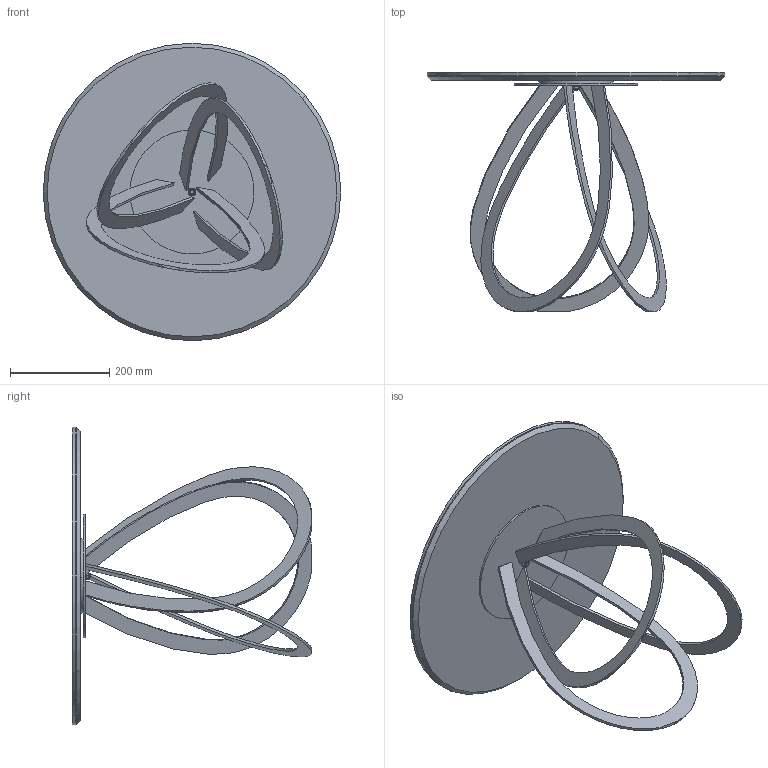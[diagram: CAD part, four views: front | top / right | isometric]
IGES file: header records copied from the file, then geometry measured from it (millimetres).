
Start section: SolidWorks IGES file using analytic representation for surfaces
Global section: file name: Y:\eforma\TECNICO\SOLIDWORKS\E-FORMA\2-TAVOLINI\FEBE LOW\02 parts\FL01C_Febe Low_d60xh48_Ceramic.IGS; native system: SolidWorks 2022; preprocessor: SolidWorks 2022; author: eforma.tech; date: 240806.105511; units: millimetre
Bounding box: 599.98 x 482.62 x 599.98 mm (x, y, z)
Volume: 5306424.7 mm3; surface area: 1544564.1 mm2
Topology: 10 solids, 10 shells, 125 faces, 276 edges, 177 vertices
Faces by surface type: revolution 60, plane 53, bspline 12
